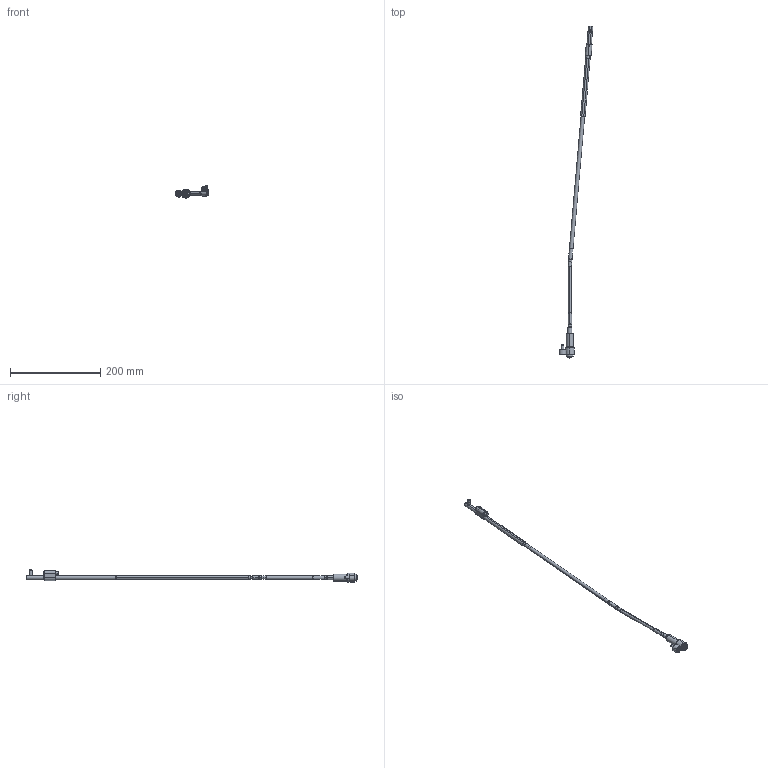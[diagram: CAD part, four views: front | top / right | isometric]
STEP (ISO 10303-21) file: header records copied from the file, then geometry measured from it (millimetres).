
FILE_DESCRIPTION (( 'STEP AP214' ), '1' );
FILE_NAME ('WL080100L-INJ 5°.STEP', '2021-03-19T15:27:07', ( '' ), ( '' ), 'SwSTEP 2.0', 'SolidWorks 2019', '' );
FILE_SCHEMA (( 'AUTOMOTIVE_DESIGN' ));
Length unit declared in the file: millimetre
Products named in the file (17): 1DIN912545_DIN 912 M5 x 50 --- 50C; Web-WP08-1; 9DR2206-TOR; WL080100-E; Web-WL08-F01; WL080100-B1_WL0800FF-1; Web-WL08-A3; Web-WL08-F00.SLDPRT; Web-WL08XX-A7_OFF-WL080100-5; 3IMAN4X2-150_con sello; 1DIN912616_DIN 912 M6 x 16 --- 16C; WL080100-D; WL080100L-INJ 5°; Web-WL08-A1; Web-WL08-A2; WL080100-C; WL080100-B_WL0800FF
Assembly tree (16 placements, depth 3):
  WL080100L-INJ 5°
    Web-WP08-1
    Web-WL08XX-A7_OFF-WL080100-5
    Web-WL08-A3
    Web-WL08-A2
    Web-WL08-A1
    WL080100-D
    WL080100-C
    WL080100-B_WL0800FF
      WL080100-B1_WL0800FF-1
      3IMAN4X2-150_con sello
    WL080100-E
    9DR2206-TOR
    Web-WL08-F00.SLDPRT
      Web-WL08-F01
      1DIN912545_DIN 912 M5 x 50 --- 50C
      1DIN912616_DIN 912 M6 x 16 --- 16C
Bounding box: 74.99 x 735.4 x 26.9 mm (x, y, z)
Volume: 57313.8 mm3; surface area: 33636.2 mm2
Topology: 15 solids, 15 shells, 424 faces, 888 edges, 516 vertices
Faces by surface type: plane 132, cylinder 128, cone 116, torus 48
Entity records: 13492 total; most frequent: DIRECTION 2218, CARTESIAN_POINT 2045, ORIENTED_EDGE 1756, AXIS2_PLACEMENT_3D 921, EDGE_CURVE 878, VERTEX_POINT 516, CIRCLE 476, EDGE_LOOP 468
